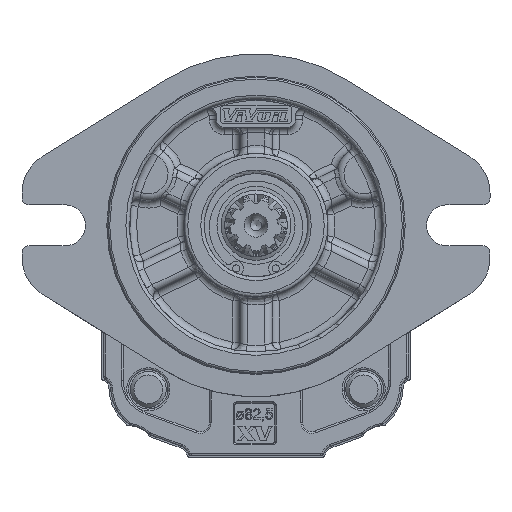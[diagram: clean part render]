
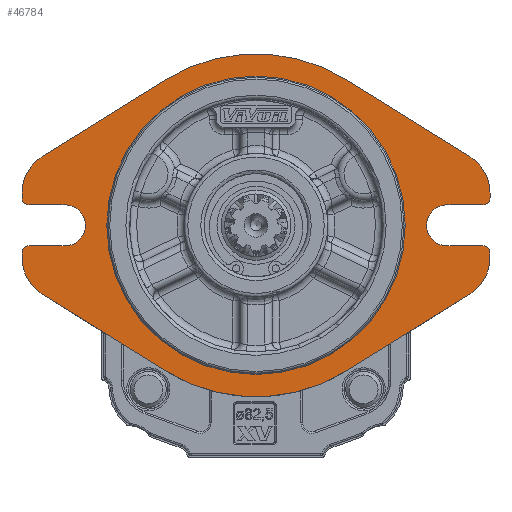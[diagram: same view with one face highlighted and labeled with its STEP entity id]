
A CAD part, front view. The second image highlights one B-rep face of the part: STEP entity #46784.
In plain terms, the highlighted planar face has unit normal (0, -1, 0).
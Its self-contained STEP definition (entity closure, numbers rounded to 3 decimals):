
#2745=LINE('',#65760,#4769);
#2749=LINE('',#65772,#4773);
#2750=LINE('',#65774,#4774);
#2757=LINE('',#65793,#4781);
#2758=LINE('',#65795,#4782);
#2765=LINE('',#65824,#4789);
#2766=LINE('',#65829,#4790);
#2767=LINE('',#65833,#4791);
#2768=LINE('',#65836,#4792);
#2769=LINE('',#65840,#4793);
#2770=LINE('',#65844,#4794);
#2771=LINE('',#65848,#4795);
#4769=VECTOR('',#54006,1000.);
#4773=VECTOR('',#54018,1000.);
#4774=VECTOR('',#54021,1000.);
#4781=VECTOR('',#54036,1000.);
#4782=VECTOR('',#54039,1000.);
#4789=VECTOR('',#54068,1000.);
#4790=VECTOR('',#54071,1000.);
#4791=VECTOR('',#54074,1000.);
#4792=VECTOR('',#54079,1000.);
#4793=VECTOR('',#54082,1000.);
#4794=VECTOR('',#54085,1000.);
#4795=VECTOR('',#54088,1000.);
#6455=PLANE('',#49276);
#9963=ORIENTED_EDGE('',*,*,#18930,.T.);
#9964=ORIENTED_EDGE('',*,*,#18931,.F.);
#9965=ORIENTED_EDGE('',*,*,#18932,.T.);
#9966=ORIENTED_EDGE('',*,*,#18933,.F.);
#9967=ORIENTED_EDGE('',*,*,#18934,.F.);
#9968=ORIENTED_EDGE('',*,*,#18935,.F.);
#9969=ORIENTED_EDGE('',*,*,#18851,.F.);
#9970=ORIENTED_EDGE('',*,*,#18900,.F.);
#9971=ORIENTED_EDGE('',*,*,#18903,.F.);
#9972=ORIENTED_EDGE('',*,*,#18906,.F.);
#9973=ORIENTED_EDGE('',*,*,#18936,.T.);
#9974=ORIENTED_EDGE('',*,*,#18907,.F.);
#9975=ORIENTED_EDGE('',*,*,#18913,.F.);
#9976=ORIENTED_EDGE('',*,*,#18916,.F.);
#9977=ORIENTED_EDGE('',*,*,#18937,.T.);
#9978=ORIENTED_EDGE('',*,*,#18917,.F.);
#9979=ORIENTED_EDGE('',*,*,#18929,.F.);
#9980=ORIENTED_EDGE('',*,*,#18938,.F.);
#9981=ORIENTED_EDGE('',*,*,#18939,.F.);
#9982=ORIENTED_EDGE('',*,*,#18940,.F.);
#9983=ORIENTED_EDGE('',*,*,#18941,.F.);
#9984=ORIENTED_EDGE('',*,*,#18942,.F.);
#9985=ORIENTED_EDGE('',*,*,#18943,.T.);
#9986=ORIENTED_EDGE('',*,*,#18944,.F.);
#9987=ORIENTED_EDGE('',*,*,#18945,.F.);
#18851=EDGE_CURVE('',#23482,#23483,#26173,.T.);
#18900=EDGE_CURVE('',#23525,#23482,#2745,.T.);
#18903=EDGE_CURVE('',#23527,#23525,#26201,.T.);
#18906=EDGE_CURVE('',#23529,#23527,#2749,.T.);
#18907=EDGE_CURVE('',#23530,#23531,#2750,.T.);
#18913=EDGE_CURVE('',#23535,#23530,#26203,.T.);
#18916=EDGE_CURVE('',#23537,#23535,#2757,.T.);
#18917=EDGE_CURVE('',#23538,#23539,#2758,.T.);
#18929=EDGE_CURVE('',#23547,#23538,#26209,.T.);
#18930=EDGE_CURVE('',#23548,#23548,#26210,.T.);
#18931=EDGE_CURVE('',#23549,#23550,#2765,.T.);
#18932=EDGE_CURVE('',#23549,#23551,#26211,.F.);
#18933=EDGE_CURVE('',#23552,#23551,#2766,.T.);
#18934=EDGE_CURVE('',#23553,#23552,#26212,.T.);
#18935=EDGE_CURVE('',#23483,#23553,#2767,.T.);
#18936=EDGE_CURVE('',#23529,#23531,#26213,.F.);
#18937=EDGE_CURVE('',#23537,#23539,#26214,.F.);
#18938=EDGE_CURVE('',#23554,#23547,#2768,.T.);
#18939=EDGE_CURVE('',#23555,#23554,#26215,.T.);
#18940=EDGE_CURVE('',#23556,#23555,#2769,.T.);
#18941=EDGE_CURVE('',#23557,#23556,#26216,.T.);
#18942=EDGE_CURVE('',#23558,#23557,#2770,.T.);
#18943=EDGE_CURVE('',#23558,#23559,#26217,.F.);
#18944=EDGE_CURVE('',#23560,#23559,#2771,.T.);
#18945=EDGE_CURVE('',#23550,#23560,#26218,.T.);
#23482=VERTEX_POINT('',#65660);
#23483=VERTEX_POINT('',#65662);
#23525=VERTEX_POINT('',#65759);
#23527=VERTEX_POINT('',#65765);
#23529=VERTEX_POINT('',#65771);
#23530=VERTEX_POINT('',#65775);
#23531=VERTEX_POINT('',#65776);
#23535=VERTEX_POINT('',#65786);
#23537=VERTEX_POINT('',#65792);
#23538=VERTEX_POINT('',#65796);
#23539=VERTEX_POINT('',#65797);
#23547=VERTEX_POINT('',#65819);
#23548=VERTEX_POINT('',#65823);
#23549=VERTEX_POINT('',#65825);
#23550=VERTEX_POINT('',#65826);
#23551=VERTEX_POINT('',#65828);
#23552=VERTEX_POINT('',#65830);
#23553=VERTEX_POINT('',#65832);
#23554=VERTEX_POINT('',#65837);
#23555=VERTEX_POINT('',#65839);
#23556=VERTEX_POINT('',#65841);
#23557=VERTEX_POINT('',#65843);
#23558=VERTEX_POINT('',#65845);
#23559=VERTEX_POINT('',#65847);
#23560=VERTEX_POINT('',#65849);
#26173=CIRCLE('',#49225,47.75);
#26201=CIRCLE('',#49259,12.);
#26203=CIRCLE('',#49264,5.7);
#26209=CIRCLE('',#49275,12.);
#26210=CIRCLE('',#49277,40.982);
#26211=CIRCLE('',#49278,2.);
#26212=CIRCLE('',#49279,12.);
#26213=CIRCLE('',#49280,2.);
#26214=CIRCLE('',#49281,2.);
#26215=CIRCLE('',#49282,47.75);
#26216=CIRCLE('',#49283,12.);
#26217=CIRCLE('',#49284,2.);
#26218=CIRCLE('',#49285,5.7);
#27943=EDGE_LOOP('',(#9963));
#27944=EDGE_LOOP('',(#9964,#9965,#9966,#9967,#9968,#9969,#9970,#9971,#9972,
#9973,#9974,#9975,#9976,#9977,#9978,#9979,#9980,#9981,#9982,#9983,#9984,
#9985,#9986,#9987));
#30285=FACE_BOUND('',#27943,.T.);
#30286=FACE_BOUND('',#27944,.T.);
#46784=ADVANCED_FACE('',(#30285,#30286),#6455,.F.);
#49225=AXIS2_PLACEMENT_3D('',#65661,#53922,#53923);
#49259=AXIS2_PLACEMENT_3D('',#65766,#54012,#54013);
#49264=AXIS2_PLACEMENT_3D('',#65787,#54030,#54031);
#49275=AXIS2_PLACEMENT_3D('',#65820,#54062,#54063);
#49276=AXIS2_PLACEMENT_3D('',#65821,#54064,#54065);
#49277=AXIS2_PLACEMENT_3D('',#65822,#54066,#54067);
#49278=AXIS2_PLACEMENT_3D('',#65827,#54069,#54070);
#49279=AXIS2_PLACEMENT_3D('',#65831,#54072,#54073);
#49280=AXIS2_PLACEMENT_3D('',#65834,#54075,#54076);
#49281=AXIS2_PLACEMENT_3D('',#65835,#54077,#54078);
#49282=AXIS2_PLACEMENT_3D('',#65838,#54080,#54081);
#49283=AXIS2_PLACEMENT_3D('',#65842,#54083,#54084);
#49284=AXIS2_PLACEMENT_3D('',#65846,#54086,#54087);
#49285=AXIS2_PLACEMENT_3D('',#65850,#54089,#54090);
#53922=DIRECTION('',(0.,1.,0.));
#53923=DIRECTION('',(-1.,0.,0.));
#54006=DIRECTION('',(-0.849,0.,-0.528));
#54012=DIRECTION('',(0.,1.,0.));
#54013=DIRECTION('',(-1.,0.,0.));
#54018=DIRECTION('',(0.,0.,-1.));
#54021=DIRECTION('',(1.,0.,0.));
#54030=DIRECTION('',(0.,-1.,0.));
#54031=DIRECTION('',(1.,0.,0.));
#54036=DIRECTION('',(-1.,0.,0.));
#54039=DIRECTION('',(0.,0.,-1.));
#54062=DIRECTION('',(0.,1.,0.));
#54063=DIRECTION('',(-1.,0.,0.));
#54064=DIRECTION('',(0.,1.,0.));
#54065=DIRECTION('',(0.,0.,-1.));
#54066=DIRECTION('',(0.,1.,0.));
#54067=DIRECTION('',(-1.,0.,0.));
#54068=DIRECTION('',(1.,0.,0.));
#54069=DIRECTION('',(0.,1.,0.));
#54070=DIRECTION('',(0.,0.,-1.));
#54071=DIRECTION('',(0.,0.,1.));
#54072=DIRECTION('',(0.,1.,0.));
#54073=DIRECTION('',(1.,0.,0.));
#54074=DIRECTION('',(-0.849,0.,0.528));
#54075=DIRECTION('',(0.,1.,0.));
#54076=DIRECTION('',(0.,0.,-1.));
#54077=DIRECTION('',(0.,1.,0.));
#54078=DIRECTION('',(0.,0.,-1.));
#54079=DIRECTION('',(0.849,0.,-0.528));
#54080=DIRECTION('',(0.,1.,0.));
#54081=DIRECTION('',(-1.,0.,0.));
#54082=DIRECTION('',(0.849,0.,0.528));
#54083=DIRECTION('',(0.,1.,0.));
#54084=DIRECTION('',(1.,0.,0.));
#54085=DIRECTION('',(0.,0.,1.));
#54086=DIRECTION('',(0.,1.,0.));
#54087=DIRECTION('',(0.,0.,-1.));
#54088=DIRECTION('',(-1.,0.,0.));
#54089=DIRECTION('',(0.,-1.,0.));
#54090=DIRECTION('',(-1.,0.,0.));
#65660=CARTESIAN_POINT('',(25.235,-19.,-24.837));
#65661=CARTESIAN_POINT('',(0.,-19.,15.7));
#65662=CARTESIAN_POINT('',(-25.235,-19.,-24.837));
#65759=CARTESIAN_POINT('',(59.532,-19.,-3.487));
#65760=CARTESIAN_POINT('',(59.532,-19.,-3.487));
#65765=CARTESIAN_POINT('',(65.19,-19.,6.7));
#65766=CARTESIAN_POINT('',(53.19,-19.,6.7));
#65771=CARTESIAN_POINT('',(65.19,-19.,8.));
#65772=CARTESIAN_POINT('',(65.19,-19.,6.7));
#65774=CARTESIAN_POINT('',(53.19,-19.,10.));
#65775=CARTESIAN_POINT('',(53.19,-19.,10.));
#65776=CARTESIAN_POINT('',(63.19,-19.,10.));
#65786=CARTESIAN_POINT('',(53.19,-19.,21.4));
#65787=CARTESIAN_POINT('',(53.19,-19.,15.7));
#65792=CARTESIAN_POINT('',(63.19,-19.,21.4));
#65793=CARTESIAN_POINT('',(53.19,-19.,21.4));
#65795=CARTESIAN_POINT('',(65.19,-19.,24.7));
#65796=CARTESIAN_POINT('',(65.19,-19.,24.7));
#65797=CARTESIAN_POINT('',(65.19,-19.,23.4));
#65819=CARTESIAN_POINT('',(59.532,-19.,34.887));
#65820=CARTESIAN_POINT('',(53.19,-19.,24.7));
#65821=CARTESIAN_POINT('',(0.,-19.,15.7));
#65822=CARTESIAN_POINT('',(0.,-19.,15.7));
#65823=CARTESIAN_POINT('',(-40.982,-19.,15.7));
#65824=CARTESIAN_POINT('',(-53.19,-19.,10.));
#65825=CARTESIAN_POINT('',(-63.19,-19.,10.));
#65826=CARTESIAN_POINT('',(-53.19,-19.,10.));
#65827=CARTESIAN_POINT('',(-63.19,-19.,8.));
#65828=CARTESIAN_POINT('',(-65.19,-19.,8.));
#65829=CARTESIAN_POINT('',(-65.19,-19.,6.7));
#65830=CARTESIAN_POINT('',(-65.19,-19.,6.7));
#65831=CARTESIAN_POINT('',(-53.19,-19.,6.7));
#65832=CARTESIAN_POINT('',(-59.532,-19.,-3.487));
#65833=CARTESIAN_POINT('',(-59.532,-19.,-3.487));
#65834=CARTESIAN_POINT('',(63.19,-19.,8.));
#65835=CARTESIAN_POINT('',(63.19,-19.,23.4));
#65836=CARTESIAN_POINT('',(25.235,-19.,56.237));
#65837=CARTESIAN_POINT('',(25.235,-19.,56.237));
#65838=CARTESIAN_POINT('',(0.,-19.,15.7));
#65839=CARTESIAN_POINT('',(-25.235,-19.,56.237));
#65840=CARTESIAN_POINT('',(-25.235,-19.,56.237));
#65841=CARTESIAN_POINT('',(-59.532,-19.,34.887));
#65842=CARTESIAN_POINT('',(-53.19,-19.,24.7));
#65843=CARTESIAN_POINT('',(-65.19,-19.,24.7));
#65844=CARTESIAN_POINT('',(-65.19,-19.,24.7));
#65845=CARTESIAN_POINT('',(-65.19,-19.,23.4));
#65846=CARTESIAN_POINT('',(-63.19,-19.,23.4));
#65847=CARTESIAN_POINT('',(-63.19,-19.,21.4));
#65848=CARTESIAN_POINT('',(-53.19,-19.,21.4));
#65849=CARTESIAN_POINT('',(-53.19,-19.,21.4));
#65850=CARTESIAN_POINT('',(-53.19,-19.,15.7));
